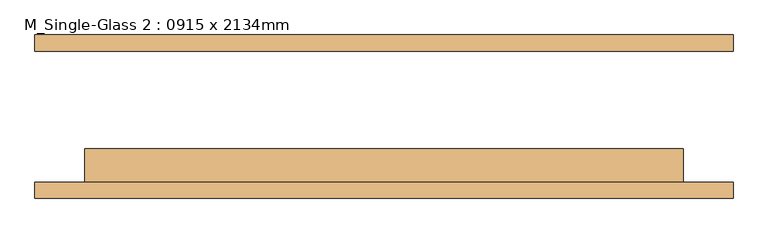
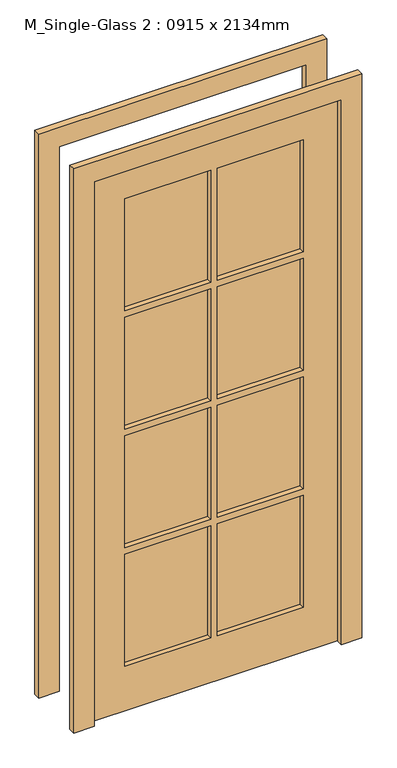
"""IFC4 building model written with IfcOpenShell, lengths in millimetres: door geometry, M_Single-Glass 2 : 0915 x 2134mm."""

from ifc_helpers import new_model, si_unit, frame, origin, place, context, project, spatial, polyline, outline, extrude, source, transform, mapped, element, save


def m_single_glass_2_0915_x_2134mm_549dff17(model_context):
    return source(origin(), model_context, "Body", "SweptSolid", [
        extrude(outline(polyline([(2210.0, 558.9), (2210.0, -508.1), (0.0, -508.1), (0.0, -432.1), (2134.0, -432.1), (2134.0, 482.9), (0.0, 482.9), (0.0, 558.9), (2210.0, 558.9)])), frame((0.0, 100.0, 0.0), z_axis=(0.0, 1.0, 0.0), x_axis=(0.0, 0.0, 1.0)), (0.0, 0.0, 1.0), 25.0),
        extrude(outline(polyline([(2210.0, -508.1), (0.0, -508.1), (0.0, -432.1), (2134.0, -432.1), (2134.0, 482.9), (0.0, 482.9), (0.0, 558.9), (2210.0, 558.9), (2210.0, -508.1)])), frame((0.0, -125.0, 0.0), z_axis=(0.0, 1.0, 0.0), x_axis=(0.0, 0.0, 1.0)), (0.0, 0.0, 1.0), 25.0),
        extrude(outline(polyline([(2134.0, 482.9), (2134.0, -432.1), (0.0, -432.1), (0.0, 482.9), (2134.0, 482.9)]), holes=[polyline([(2007.4, 12.9), (1568.05, 12.9), (1568.05, -305.1), (2007.4, -305.1), (2007.4, 12.9)]), polyline([(2007.4, 355.9), (1568.05, 355.9), (1568.05, 37.9), (2007.4, 37.9), (2007.4, 355.9)]), polyline([(1543.05, 12.9), (1103.7, 12.9), (1103.7, -305.1), (1543.05, -305.1), (1543.05, 12.9)]), polyline([(1543.05, 355.9), (1103.7, 355.9), (1103.7, 37.9), (1543.05, 37.9), (1543.05, 355.9)]), polyline([(1078.7, 12.9), (639.35, 12.9), (639.35, -305.1), (1078.7, -305.1), (1078.7, 12.9)]), polyline([(1078.7, 355.9), (639.35, 355.9), (639.35, 37.9), (1078.7, 37.9), (1078.7, 355.9)]), polyline([(614.35, 12.9), (175.0, 12.9), (175.0, -305.1), (614.35, -305.1), (614.35, 12.9)]), polyline([(614.35, 355.9), (175.0, 355.9), (175.0, 37.9), (614.35, 37.9), (614.35, 355.9)])]), frame((0.0, -100.0, 0.0), z_axis=(0.0, 1.0, 0.0), x_axis=(0.0, 0.0, 1.0)), (0.0, 0.0, 1.0), 51.0),
        extrude(outline(polyline([(12.9, -68.25), (12.9, -80.75), (-305.1, -80.75), (-305.1, -68.25), (12.9, -68.25)])), frame((0.0, 0.0, 1568.05), z_axis=(0.0, 0.0, 1.0), x_axis=(1.0, 0.0, 0.0)), (0.0, 0.0, 1.0), 439.35),
        extrude(outline(polyline([(355.9, -68.25), (355.9, -80.75), (37.9, -80.75), (37.9, -68.25), (355.9, -68.25)])), frame((0.0, 0.0, 1568.05), z_axis=(0.0, 0.0, 1.0), x_axis=(1.0, 0.0, 0.0)), (0.0, 0.0, 1.0), 439.35),
        extrude(outline(polyline([(355.9, -68.25), (355.9, -80.75), (37.9, -80.75), (37.9, -68.25), (355.9, -68.25)])), frame((0.0, 0.0, 1103.7), z_axis=(0.0, 0.0, 1.0), x_axis=(1.0, 0.0, 0.0)), (0.0, 0.0, 1.0), 439.35),
        extrude(outline(polyline([(12.9, -68.25), (12.9, -80.75), (-305.1, -80.75), (-305.1, -68.25), (12.9, -68.25)])), frame((0.0, 0.0, 1103.7), z_axis=(0.0, 0.0, 1.0), x_axis=(1.0, 0.0, 0.0)), (0.0, 0.0, 1.0), 439.35),
        extrude(outline(polyline([(12.9, -68.25), (12.9, -80.75), (-305.1, -80.75), (-305.1, -68.25), (12.9, -68.25)])), frame((0.0, 0.0, 639.35), z_axis=(0.0, 0.0, 1.0), x_axis=(1.0, 0.0, 0.0)), (0.0, 0.0, 1.0), 439.35),
        extrude(outline(polyline([(355.9, -68.25), (355.9, -80.75), (37.9, -80.75), (37.9, -68.25), (355.9, -68.25)])), frame((0.0, 0.0, 639.35), z_axis=(0.0, 0.0, 1.0), x_axis=(1.0, 0.0, 0.0)), (0.0, 0.0, 1.0), 439.35),
        extrude(outline(polyline([(355.9, -68.25), (355.9, -80.75), (37.9, -80.75), (37.9, -68.25), (355.9, -68.25)])), frame((0.0, 0.0, 175.0), z_axis=(0.0, 0.0, 1.0), x_axis=(1.0, 0.0, 0.0)), (0.0, 0.0, 1.0), 439.35),
        extrude(outline(polyline([(12.9, -68.25), (12.9, -80.75), (-305.1, -80.75), (-305.1, -68.25), (12.9, -68.25)])), frame((0.0, 0.0, 175.0), z_axis=(0.0, 0.0, 1.0), x_axis=(1.0, 0.0, 0.0)), (0.0, 0.0, 1.0), 439.35),
    ])


if __name__ == "__main__":
    model = new_model("IFC4")
    model_context = context("Model", 3, world=origin())
    ifc_project = project(units=[si_unit("LENGTHUNIT", "METRE", prefix="MILLI")], contexts=[model_context])
    site = spatial("IfcSite", under=ifc_project)
    building = spatial("IfcBuilding", under=site)
    placement = place(None, origin())
    m_single_glass_2_0915_x_2134mm_shape = m_single_glass_2_0915_x_2134mm_549dff17(model_context)
    element("IfcDoor", 1, ObjectType="M_Single-Glass 2 : 0915 x 2134mm", at=placement, inside=building, context=model_context, shape_type="MappedRepresentation", body=[
        mapped(m_single_glass_2_0915_x_2134mm_shape, transform((0.0, 0.0, 0.0), x_axis=(1.0, 0.0, 0.0), y_axis=(0.0, 1.0, 0.0), z_axis=(0.0, 0.0, 1.0))),
    ])
    save(model, "model.ifc")
